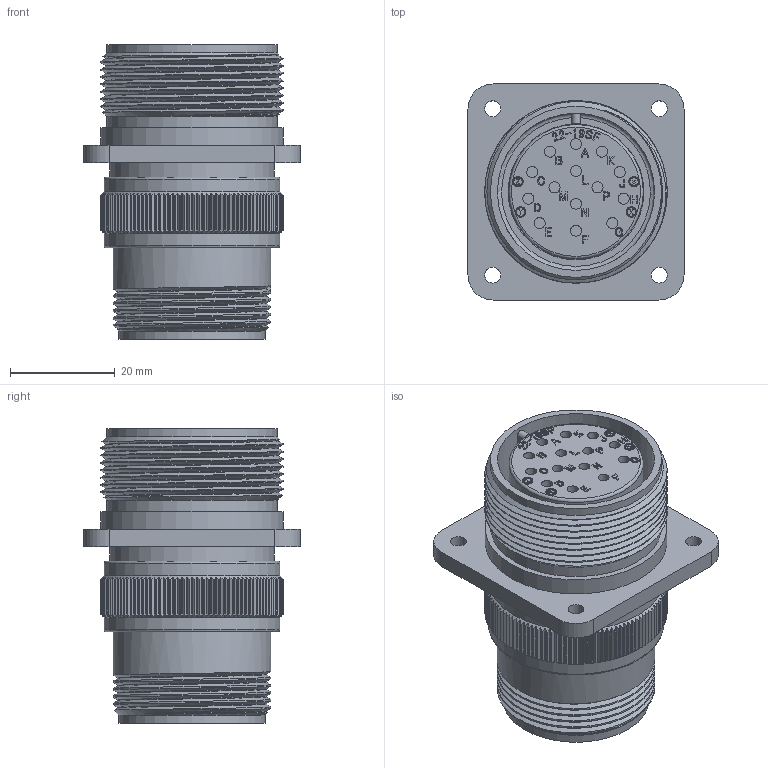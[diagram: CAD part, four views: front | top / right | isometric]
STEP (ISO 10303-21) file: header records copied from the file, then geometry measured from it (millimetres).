
FILE_DESCRIPTION (( 'STEP AP203' ), '1' );
FILE_NAME ('DMS3100A22-19S.STEP', '2022-03-02T10:08:48', ( '' ), ( '' ), 'SwSTEP 2.0', 'SolidWorks 2018', '' );
FILE_SCHEMA (( 'CONFIG_CONTROL_DESIGN' ));
Length unit declared in the file: millimetre
Products named in the file (1): DMS3100A22-19S
Bounding box: 41.27 x 41.27 x 56.3 mm (x, y, z)
Volume: 32823.1 mm3; surface area: 20081.3 mm2
Topology: 1 solids, 1 shells, 1936 faces, 5372 edges, 3565 vertices
Faces by surface type: plane 911, cylinder 669, bspline 321, torus 30, cone 5
Full cylindrical faces by diameter (mm): 1.6 x4, 2 x4, 2.11 x14, 3.05 x4, 23.16 x1, 24.6 x1, 25.65 x1, 25.94 x1, 26.19 x1, 27.92 x1, 30.03 x1, 30.12 x5, 31.44 x1, 31.75 x1, 32.68 x2, 33.58 x2, 34.83 x1
Entity records: 79191 total; most frequent: CARTESIAN_POINT 34453, ORIENTED_EDGE 10562, DIRECTION 7069, EDGE_CURVE 5281, VERTEX_POINT 3528, LINE 2719, VECTOR 2719, AXIS2_PLACEMENT_3D 2175
